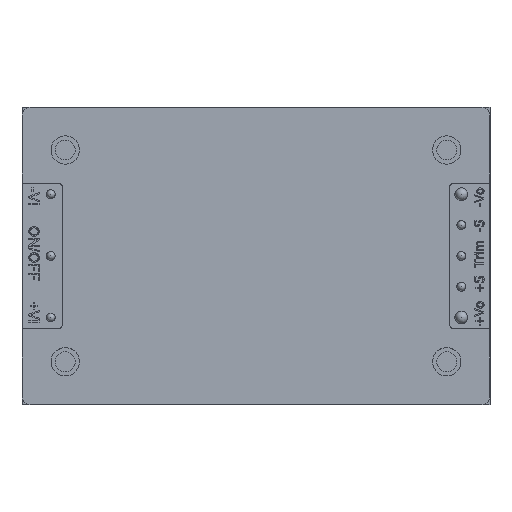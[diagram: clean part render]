
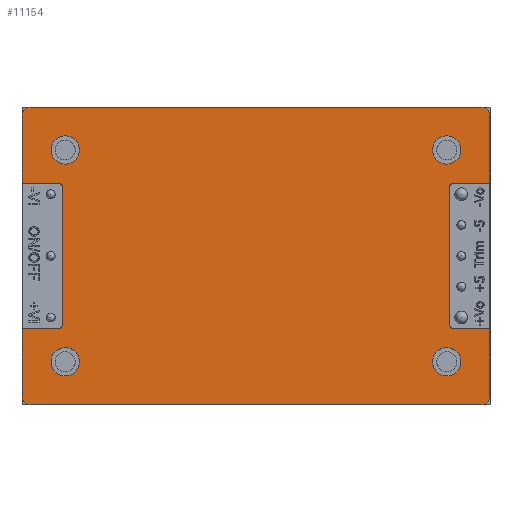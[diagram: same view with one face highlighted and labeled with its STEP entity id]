
A CAD part, top view. The second image highlights one B-rep face of the part: STEP entity #11154.
In plain terms, the highlighted planar face has unit normal (0, 0, 1).
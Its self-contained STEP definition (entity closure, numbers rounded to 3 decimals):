
#10908=CARTESIAN_POINT('',(-28.95,17.4,1.5));
#10909=VERTEX_POINT('',#10908);
#10910=CARTESIAN_POINT('',(-27.95,18.4,1.5));
#10911=VERTEX_POINT('',#10910);
#10912=CARTESIAN_POINT('',(-27.95,17.4,1.5));
#10913=DIRECTION('',(0.0,0.0,-1.0));
#10914=DIRECTION('',(-0.707,0.707,0.0));
#10915=AXIS2_PLACEMENT_3D('',#10912,#10913,#10914);
#10916=CIRCLE('',#10915,1.);
#10917=EDGE_CURVE('',#10909,#10911,#10916,.T.);
#10945=CARTESIAN_POINT('',(0.,0.,1.5));
#10946=DIRECTION('',(0.0,0.0,1.0));
#10947=DIRECTION('',(1.0,0.0,0.0));
#10948=AXIS2_PLACEMENT_3D('',#10945,#10946,#10947);
#10949=PLANE('',#10948);
#10950=ORIENTED_EDGE('',*,*,#10917,.F.);
#10951=CARTESIAN_POINT('',(-28.95,9.0,1.5));
#10952=VERTEX_POINT('',#10951);
#10953=CARTESIAN_POINT('',(-28.95,9.0,1.5));
#10954=DIRECTION('',(0.0,1.0,0.0));
#10955=VECTOR('',#10954,8.4);
#10956=LINE('',#10953,#10955);
#10957=EDGE_CURVE('',#10952,#10909,#10956,.T.);
#10958=ORIENTED_EDGE('',*,*,#10957,.F.);
#10959=CARTESIAN_POINT('',(-24.45,9.0,1.5));
#10960=VERTEX_POINT('',#10959);
#10961=CARTESIAN_POINT('',(-28.95,9.0,1.5));
#10962=DIRECTION('',(1.0,0.0,0.0));
#10963=VECTOR('',#10962,4.5);
#10964=LINE('',#10961,#10963);
#10965=EDGE_CURVE('',#10952,#10960,#10964,.T.);
#10966=ORIENTED_EDGE('',*,*,#10965,.T.);
#10967=CARTESIAN_POINT('',(-23.95,8.5,1.5));
#10968=VERTEX_POINT('',#10967);
#10969=CARTESIAN_POINT('',(-24.45,8.5,1.5));
#10970=DIRECTION('',(0.0,0.0,1.0));
#10971=DIRECTION('',(0.707,0.707,0.0));
#10972=AXIS2_PLACEMENT_3D('',#10969,#10970,#10971);
#10973=CIRCLE('',#10972,0.5);
#10974=EDGE_CURVE('',#10968,#10960,#10973,.T.);
#10975=ORIENTED_EDGE('',*,*,#10974,.F.);
#10976=CARTESIAN_POINT('',(-23.95,-8.5,1.5));
#10977=VERTEX_POINT('',#10976);
#10978=CARTESIAN_POINT('',(-23.95,8.5,1.5));
#10979=DIRECTION('',(0.0,-1.0,0.0));
#10980=VECTOR('',#10979,17.0);
#10981=LINE('',#10978,#10980);
#10982=EDGE_CURVE('',#10968,#10977,#10981,.T.);
#10983=ORIENTED_EDGE('',*,*,#10982,.T.);
#10984=CARTESIAN_POINT('',(-24.45,-9.0,1.5));
#10985=VERTEX_POINT('',#10984);
#10986=CARTESIAN_POINT('',(-24.45,-8.5,1.5));
#10987=DIRECTION('',(0.0,0.0,1.0));
#10988=DIRECTION('',(0.707,-0.707,0.0));
#10989=AXIS2_PLACEMENT_3D('',#10986,#10987,#10988);
#10990=CIRCLE('',#10989,0.5);
#10991=EDGE_CURVE('',#10985,#10977,#10990,.T.);
#10992=ORIENTED_EDGE('',*,*,#10991,.F.);
#10993=CARTESIAN_POINT('',(-28.95,-9.0,1.5));
#10994=VERTEX_POINT('',#10993);
#10995=CARTESIAN_POINT('',(-24.45,-9.0,1.5));
#10996=DIRECTION('',(-1.0,0.0,0.0));
#10997=VECTOR('',#10996,4.5);
#10998=LINE('',#10995,#10997);
#10999=EDGE_CURVE('',#10985,#10994,#10998,.T.);
#11000=ORIENTED_EDGE('',*,*,#10999,.T.);
#11001=CARTESIAN_POINT('',(-28.95,-17.4,1.5));
#11002=VERTEX_POINT('',#11001);
#11003=CARTESIAN_POINT('',(-28.95,-17.4,1.5));
#11004=DIRECTION('',(0.0,1.0,0.0));
#11005=VECTOR('',#11004,8.4);
#11006=LINE('',#11003,#11005);
#11007=EDGE_CURVE('',#11002,#10994,#11006,.T.);
#11008=ORIENTED_EDGE('',*,*,#11007,.F.);
#11009=CARTESIAN_POINT('',(-27.95,-18.4,1.5));
#11010=VERTEX_POINT('',#11009);
#11011=CARTESIAN_POINT('',(-27.95,-17.4,1.5));
#11012=DIRECTION('',(0.0,0.0,-1.0));
#11013=DIRECTION('',(-0.707,-0.707,0.0));
#11014=AXIS2_PLACEMENT_3D('',#11011,#11012,#11013);
#11015=CIRCLE('',#11014,1.);
#11016=EDGE_CURVE('',#11010,#11002,#11015,.T.);
#11017=ORIENTED_EDGE('',*,*,#11016,.F.);
#11018=CARTESIAN_POINT('',(27.95,-18.4,1.5));
#11019=VERTEX_POINT('',#11018);
#11020=CARTESIAN_POINT('',(27.95,-18.4,1.5));
#11021=DIRECTION('',(-1.0,0.0,0.0));
#11022=VECTOR('',#11021,55.9);
#11023=LINE('',#11020,#11022);
#11024=EDGE_CURVE('',#11019,#11010,#11023,.T.);
#11025=ORIENTED_EDGE('',*,*,#11024,.F.);
#11026=CARTESIAN_POINT('',(28.95,-17.4,1.5));
#11027=VERTEX_POINT('',#11026);
#11028=CARTESIAN_POINT('',(27.95,-17.4,1.5));
#11029=DIRECTION('',(0.0,0.0,-1.0));
#11030=DIRECTION('',(0.707,-0.707,0.0));
#11031=AXIS2_PLACEMENT_3D('',#11028,#11029,#11030);
#11032=CIRCLE('',#11031,1.);
#11033=EDGE_CURVE('',#11027,#11019,#11032,.T.);
#11034=ORIENTED_EDGE('',*,*,#11033,.F.);
#11035=CARTESIAN_POINT('',(28.95,-9.0,1.5));
#11036=VERTEX_POINT('',#11035);
#11037=CARTESIAN_POINT('',(28.95,-9.0,1.5));
#11038=DIRECTION('',(0.0,-1.0,0.0));
#11039=VECTOR('',#11038,8.4);
#11040=LINE('',#11037,#11039);
#11041=EDGE_CURVE('',#11036,#11027,#11040,.T.);
#11042=ORIENTED_EDGE('',*,*,#11041,.F.);
#11043=CARTESIAN_POINT('',(24.45,-9.0,1.5));
#11044=VERTEX_POINT('',#11043);
#11045=CARTESIAN_POINT('',(28.95,-9.0,1.5));
#11046=DIRECTION('',(-1.0,0.0,0.0));
#11047=VECTOR('',#11046,4.5);
#11048=LINE('',#11045,#11047);
#11049=EDGE_CURVE('',#11036,#11044,#11048,.T.);
#11050=ORIENTED_EDGE('',*,*,#11049,.T.);
#11051=CARTESIAN_POINT('',(23.95,-8.5,1.5));
#11052=VERTEX_POINT('',#11051);
#11053=CARTESIAN_POINT('',(24.45,-8.5,1.5));
#11054=DIRECTION('',(0.0,0.0,1.));
#11055=DIRECTION('',(-0.707,-0.707,0.0));
#11056=AXIS2_PLACEMENT_3D('',#11053,#11054,#11055);
#11057=CIRCLE('',#11056,0.5);
#11058=EDGE_CURVE('',#11052,#11044,#11057,.T.);
#11059=ORIENTED_EDGE('',*,*,#11058,.F.);
#11060=CARTESIAN_POINT('',(23.95,8.5,1.5));
#11061=VERTEX_POINT('',#11060);
#11062=CARTESIAN_POINT('',(23.95,-8.5,1.5));
#11063=DIRECTION('',(0.0,1.0,0.0));
#11064=VECTOR('',#11063,17.);
#11065=LINE('',#11062,#11064);
#11066=EDGE_CURVE('',#11052,#11061,#11065,.T.);
#11067=ORIENTED_EDGE('',*,*,#11066,.T.);
#11068=CARTESIAN_POINT('',(24.45,9.,1.5));
#11069=VERTEX_POINT('',#11068);
#11070=CARTESIAN_POINT('',(24.45,8.5,1.5));
#11071=DIRECTION('',(0.0,0.0,1.0));
#11072=DIRECTION('',(-0.707,0.707,0.0));
#11073=AXIS2_PLACEMENT_3D('',#11070,#11071,#11072);
#11074=CIRCLE('',#11073,0.5);
#11075=EDGE_CURVE('',#11069,#11061,#11074,.T.);
#11076=ORIENTED_EDGE('',*,*,#11075,.F.);
#11077=CARTESIAN_POINT('',(28.95,9.,1.5));
#11078=VERTEX_POINT('',#11077);
#11079=CARTESIAN_POINT('',(24.45,9.,1.5));
#11080=DIRECTION('',(1.0,0.0,0.0));
#11081=VECTOR('',#11080,4.5);
#11082=LINE('',#11079,#11081);
#11083=EDGE_CURVE('',#11069,#11078,#11082,.T.);
#11084=ORIENTED_EDGE('',*,*,#11083,.T.);
#11085=CARTESIAN_POINT('',(28.95,17.4,1.5));
#11086=VERTEX_POINT('',#11085);
#11087=CARTESIAN_POINT('',(28.95,17.4,1.5));
#11088=DIRECTION('',(0.0,-1.0,0.0));
#11089=VECTOR('',#11088,8.4);
#11090=LINE('',#11087,#11089);
#11091=EDGE_CURVE('',#11086,#11078,#11090,.T.);
#11092=ORIENTED_EDGE('',*,*,#11091,.F.);
#11093=CARTESIAN_POINT('',(27.95,18.4,1.5));
#11094=VERTEX_POINT('',#11093);
#11095=CARTESIAN_POINT('',(27.95,17.4,1.5));
#11096=DIRECTION('',(0.0,0.0,-1.0));
#11097=DIRECTION('',(0.707,0.707,0.0));
#11098=AXIS2_PLACEMENT_3D('',#11095,#11096,#11097);
#11099=CIRCLE('',#11098,1.);
#11100=EDGE_CURVE('',#11094,#11086,#11099,.T.);
#11101=ORIENTED_EDGE('',*,*,#11100,.F.);
#11102=CARTESIAN_POINT('',(-27.95,18.4,1.5));
#11103=DIRECTION('',(1.0,0.0,0.0));
#11104=VECTOR('',#11103,55.9);
#11105=LINE('',#11102,#11104);
#11106=EDGE_CURVE('',#10911,#11094,#11105,.T.);
#11107=ORIENTED_EDGE('',*,*,#11106,.F.);
#11108=EDGE_LOOP('',(#10950,#10958,#10966,#10975,#10983,#10992,#11000,#11008,#11017,#11025,#11034,#11042,#11050,#11059,#11067,#11076,#11084,#11092,#11101,#11107));
#11109=FACE_OUTER_BOUND('',#11108,.T.);
#11110=CARTESIAN_POINT('',(-21.85,-13.1,1.5));
#11111=VERTEX_POINT('',#11110);
#11112=CARTESIAN_POINT('',(-23.6,-13.1,1.5));
#11113=DIRECTION('',(0.0,0.0,-1.0));
#11114=DIRECTION('',(1.0,0.0,0.0));
#11115=AXIS2_PLACEMENT_3D('',#11112,#11113,#11114);
#11116=CIRCLE('',#11115,1.75);
#11117=EDGE_CURVE('',#11111,#11111,#11116,.T.);
#11118=ORIENTED_EDGE('',*,*,#11117,.T.);
#11119=EDGE_LOOP('',(#11118));
#11120=FACE_BOUND('',#11119,.T.);
#11121=CARTESIAN_POINT('',(25.35,13.1,1.5));
#11122=VERTEX_POINT('',#11121);
#11123=CARTESIAN_POINT('',(23.6,13.1,1.5));
#11124=DIRECTION('',(0.0,0.0,-1.0));
#11125=DIRECTION('',(1.0,0.0,0.0));
#11126=AXIS2_PLACEMENT_3D('',#11123,#11124,#11125);
#11127=CIRCLE('',#11126,1.75);
#11128=EDGE_CURVE('',#11122,#11122,#11127,.T.);
#11129=ORIENTED_EDGE('',*,*,#11128,.T.);
#11130=EDGE_LOOP('',(#11129));
#11131=FACE_BOUND('',#11130,.T.);
#11132=CARTESIAN_POINT('',(-21.85,13.1,1.5));
#11133=VERTEX_POINT('',#11132);
#11134=CARTESIAN_POINT('',(-23.6,13.1,1.5));
#11135=DIRECTION('',(0.0,0.0,-1.0));
#11136=DIRECTION('',(1.0,0.0,0.0));
#11137=AXIS2_PLACEMENT_3D('',#11134,#11135,#11136);
#11138=CIRCLE('',#11137,1.75);
#11139=EDGE_CURVE('',#11133,#11133,#11138,.T.);
#11140=ORIENTED_EDGE('',*,*,#11139,.T.);
#11141=EDGE_LOOP('',(#11140));
#11142=FACE_BOUND('',#11141,.T.);
#11143=CARTESIAN_POINT('',(25.35,-13.1,1.5));
#11144=VERTEX_POINT('',#11143);
#11145=CARTESIAN_POINT('',(23.6,-13.1,1.5));
#11146=DIRECTION('',(0.0,0.0,-1.0));
#11147=DIRECTION('',(1.0,0.0,0.0));
#11148=AXIS2_PLACEMENT_3D('',#11145,#11146,#11147);
#11149=CIRCLE('',#11148,1.75);
#11150=EDGE_CURVE('',#11144,#11144,#11149,.T.);
#11151=ORIENTED_EDGE('',*,*,#11150,.T.);
#11152=EDGE_LOOP('',(#11151));
#11153=FACE_BOUND('',#11152,.T.);
#11154=ADVANCED_FACE('',(#11109,#11120,#11131,#11142,#11153),#10949,.T.);
